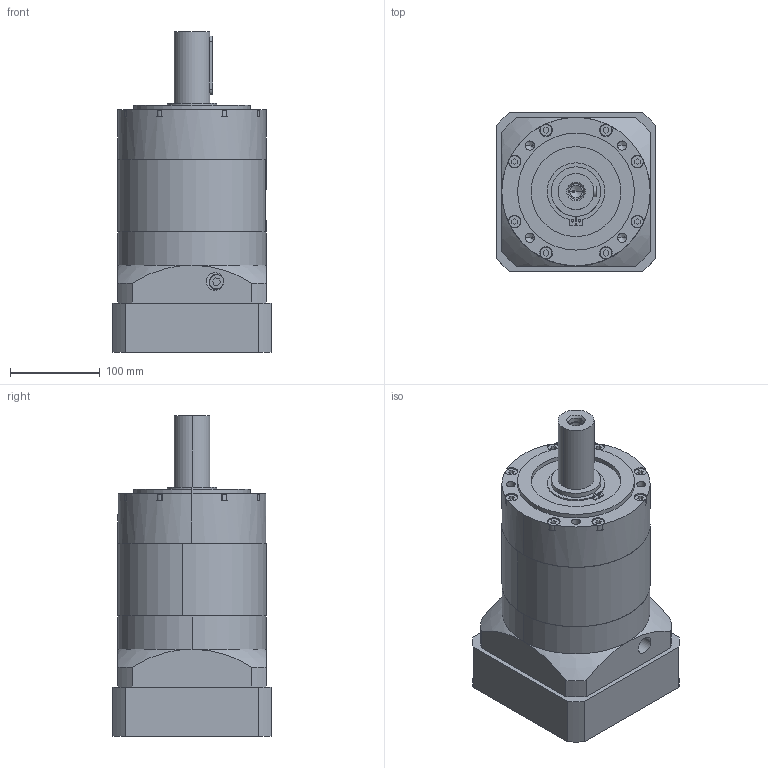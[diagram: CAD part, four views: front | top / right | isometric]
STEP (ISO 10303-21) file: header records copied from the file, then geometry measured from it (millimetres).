
FILE_DESCRIPTION (( 'STEP AP203' ), '1' );
FILE_NAME ('PLE160-L2-42-114.3-200.STEP', '2022-07-04T08:42:58', ( 'Windows User' ), ( 'P R C' ), 'SwSTEP 2.0', 'SolidWorks 2016', '' );
FILE_SCHEMA (( 'CONFIG_CONTROL_DESIGN' ));
Length unit declared in the file: millimetre
Products named in the file (8): PLE160-帣釱-薊粣ん-42-LR66; PLE160-蟀諉啣-114.3-M10-200-55L_2; PLE160-L2-42-114.3-200; PLE160 內齿圈_二级内齿圈; PLE160 奻屳唳; 邧埴瑩 12x8x65; GB／T276-94深沟球轴承6011-2RZ; GB／T70．1-2000内六角圆柱头螺钉M10×35
Assembly tree (8 placements, depth 2):
  PLE160-L2-42-114.3-200
    GB／T70．1-2000内六角圆柱头螺钉M10×35  x2
    PLE160 內齿圈_二级内齿圈
    PLE160 奻屳唳
    邧埴瑩 12x8x65
    GB／T276-94深沟球轴承6011-2RZ
    PLE160-帣釱-薊粣ん-42-LR66
    PLE160-蟀諉啣-114.3-M10-200-55L_2
Bounding box: 176 x 176 x 357 mm (x, y, z)
Volume: 5607199 mm3; surface area: 510230.4 mm2
Topology: 8 solids, 16 shells, 1201 faces, 3246 edges, 2130 vertices
Faces by surface type: plane 640, cylinder 236, bspline 150, sphere 83, torus 56, cone 36
Entity records: 47960 total; most frequent: CARTESIAN_POINT 18640, ORIENTED_EDGE 6242, DIRECTION 5385, EDGE_CURVE 3121, VERTEX_POINT 2068, AXIS2_PLACEMENT_3D 1897, LINE 1591, VECTOR 1591
